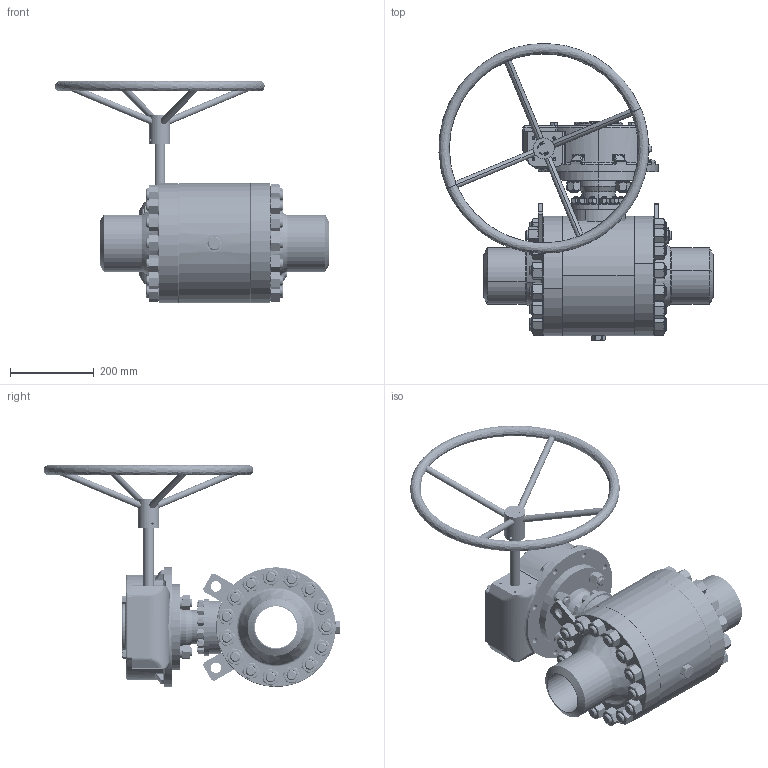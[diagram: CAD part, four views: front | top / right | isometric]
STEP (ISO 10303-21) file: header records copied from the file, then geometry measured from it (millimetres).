
FILE_DESCRIPTION(('STEP AP203'), '1');
FILE_NAME('ZARDP 100.200.40.P.stp', '2013-12-09T06:20:10', ('UNSPECIFIED UNSPECIFIED'), ('UNSPECIFIED'), 'ASCON STEP Converter 1.3', 'Kompas 3D', '');
FILE_SCHEMA(('CONFIG_CONTROL_DESIGN','SUPPORT_RESOURCE_SCHEMA'));
Length unit declared in the file: millimetre
Products named in the file (1): 34
Bounding box: 652.77 x 706.89 x 529 mm (x, y, z)
Surface area: 2522904.5 mm2 (no closed solid volume)
Topology: 0 solids, 99 shells, 3850 faces, 9490 edges, 5890 vertices
Faces by surface type: plane 1250, cylinder 1131, cone 948, bspline 505, torus 16
Entity records: 373888 total; most frequent: CARTESIAN_POINT 289240, ORIENTED_EDGE 18529, DIRECTION 15549, EDGE_CURVE 9265, AXIS2_PLACEMENT_3D 6005, VERTEX_POINT 5878, EDGE_LOOP 4328, ADVANCED_FACE 3850
